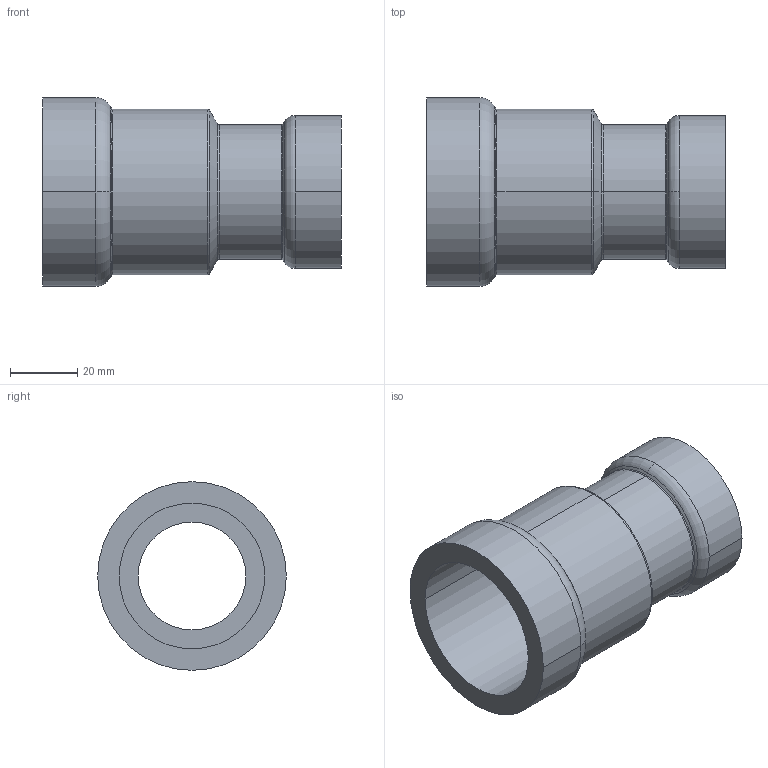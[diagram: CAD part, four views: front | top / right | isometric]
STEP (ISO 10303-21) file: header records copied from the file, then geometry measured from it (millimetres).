
FILE_DESCRIPTION(('Creo Elements/Direct Modeling STEP Export'),'2;1');
FILE_NAME('C9439_1-1-4_1.stp','2020-07-20T10:15:09',(''),(''),'PTC Creo Elements/Direct Modeling STEP processor for AP214 (Solid Model)','PTC Creo Elements/Direct Modeling 19.0C 15-Aug-2015 (C) Parametric Technology GmbH','');
FILE_SCHEMA(('AUTOMOTIVE_DESIGN { 1 0 10303 214 1 1 1 1 }'));
Length unit declared in the file: millimetre
Products named in the file (2): C9439_1-1-4_1
Assembly tree (1 placements, depth 2):
  C9439_1-1-4_1
    C9439_1-1-4_1
Bounding box: 88.7 x 56 x 56 mm (x, y, z)
Volume: 51473.2 mm3; surface area: 27439.1 mm2
Topology: 1 solids, 1 shells, 36 faces, 76 edges, 44 vertices
Faces by surface type: cylinder 14, torus 12, cone 6, plane 4
Entity records: 905 total; most frequent: DIRECTION 160, ORIENTED_EDGE 152, CARTESIAN_POINT 134, EDGE_CURVE 76, AXIS2_PLACEMENT_3D 70, VERTEX_POINT 44, EDGE_LOOP 40, FACE_OUTER_BOUND 36
